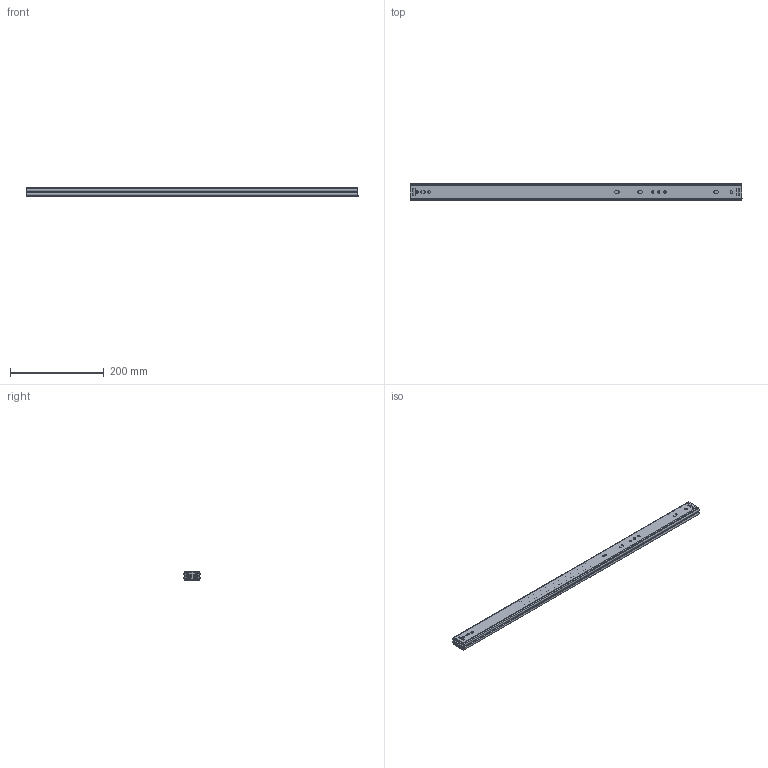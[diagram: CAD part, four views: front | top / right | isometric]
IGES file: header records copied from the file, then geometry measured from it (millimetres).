
Global section: file name: DR_L6-700; native system: Autodesk Inventor 2015; preprocessor: unknown; author: Administrator; date: 20171011.110658; units: millimetre
Bounding box: 708 x 35.23 x 19.14 mm (x, y, z)
Volume: 161878.7 mm3; surface area: 242915.7 mm2
Topology: 8 solids, 8 shells, 606 faces, 1506 edges, 1044 vertices
Faces by surface type: bspline 606
